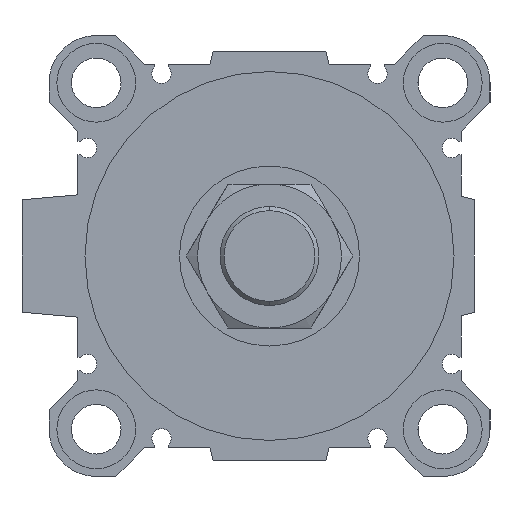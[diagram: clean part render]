
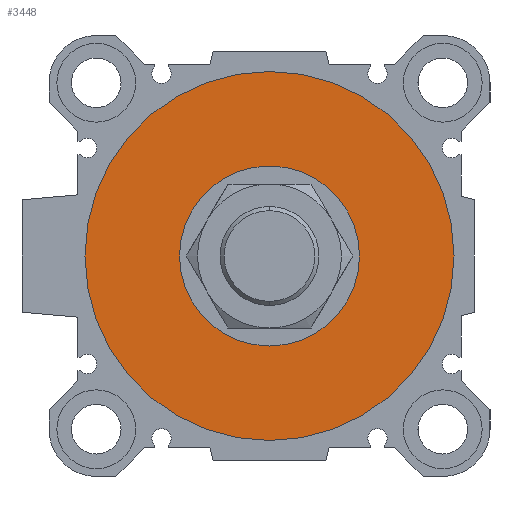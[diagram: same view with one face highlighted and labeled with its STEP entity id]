
A CAD part, left-side view. The second image highlights one B-rep face of the part: STEP entity #3448.
In plain terms, the highlighted planar face has unit normal (-1, 0, 0).
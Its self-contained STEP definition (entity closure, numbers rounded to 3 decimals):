
#30 = DIRECTION ( 'NONE',  ( 0., 0., -1. ) ) ;
#122 = CIRCLE ( 'NONE', #3495, 20. ) ;
#367 = CIRCLE ( 'NONE', #5378, 20. ) ;
#776 = ORIENTED_EDGE ( 'NONE', *, *, #5286, .T. ) ;
#891 = FACE_OUTER_BOUND ( 'NONE', #3855, .T. ) ;
#945 = DIRECTION ( 'NONE',  ( 1., 0., 0. ) ) ;
#1012 = DIRECTION ( 'NONE',  ( 1., 0., 0. ) ) ;
#1614 = VERTEX_POINT ( 'NONE', #1697 ) ;
#1697 = CARTESIAN_POINT ( 'NONE',  ( 5., 0., -20. ) ) ;
#1913 = DIRECTION ( 'NONE',  ( 1., 0., 0. ) ) ;
#2673 = CARTESIAN_POINT ( 'NONE',  ( 5., 0., 0. ) ) ;
#2872 = AXIS2_PLACEMENT_3D ( 'NONE', #7577, #5840, #30 ) ;
#3085 = DIRECTION ( 'NONE',  ( 0., 0., -1. ) ) ;
#3436 = EDGE_LOOP ( 'NONE', ( #4138, #776 ) ) ;
#3448 = ADVANCED_FACE ( 'NONE', ( #891, #6802 ), #5073, .F. ) ;
#3495 = AXIS2_PLACEMENT_3D ( 'NONE', #6037, #3734, #3085 ) ;
#3524 = AXIS2_PLACEMENT_3D ( 'NONE', #6765, #1012, #6843 ) ;
#3674 = DIRECTION ( 'NONE',  ( 0., 0., -1. ) ) ;
#3702 = AXIS2_PLACEMENT_3D ( 'NONE', #2673, #945, #4477 ) ;
#3734 = DIRECTION ( 'NONE',  ( 1., 0., 0. ) ) ;
#3855 = EDGE_LOOP ( 'NONE', ( #6724, #7085 ) ) ;
#4062 = EDGE_CURVE ( 'NONE', #7466, #1614, #367, .T. ) ;
#4138 = ORIENTED_EDGE ( 'NONE', *, *, #4062, .T. ) ;
#4468 = CIRCLE ( 'NONE', #2872, 41. ) ;
#4477 = DIRECTION ( 'NONE',  ( 0., 0., -1. ) ) ;
#4870 = VERTEX_POINT ( 'NONE', #6026 ) ;
#5011 = CARTESIAN_POINT ( 'NONE',  ( 5., 0., 0. ) ) ;
#5073 = PLANE ( 'NONE',  #3524 ) ;
#5245 = CARTESIAN_POINT ( 'NONE',  ( 5., 0., 20. ) ) ;
#5286 = EDGE_CURVE ( 'NONE', #1614, #7466, #122, .T. ) ;
#5378 = AXIS2_PLACEMENT_3D ( 'NONE', #5011, #1913, #3674 ) ;
#5540 = EDGE_CURVE ( 'NONE', #4870, #6329, #4468, .T. ) ;
#5840 = DIRECTION ( 'NONE',  ( 1., 0., 0. ) ) ;
#6026 = CARTESIAN_POINT ( 'NONE',  ( 5., 0., -41. ) ) ;
#6037 = CARTESIAN_POINT ( 'NONE',  ( 5., 0., 0. ) ) ;
#6329 = VERTEX_POINT ( 'NONE', #6619 ) ;
#6619 = CARTESIAN_POINT ( 'NONE',  ( 5., 0., 41. ) ) ;
#6631 = EDGE_CURVE ( 'NONE', #6329, #4870, #6763, .T. ) ;
#6724 = ORIENTED_EDGE ( 'NONE', *, *, #6631, .F. ) ;
#6763 = CIRCLE ( 'NONE', #3702, 41. ) ;
#6765 = CARTESIAN_POINT ( 'NONE',  ( 5., 0., 0. ) ) ;
#6802 = FACE_BOUND ( 'NONE', #3436, .T. ) ;
#6843 = DIRECTION ( 'NONE',  ( 0., 1., 0. ) ) ;
#7085 = ORIENTED_EDGE ( 'NONE', *, *, #5540, .F. ) ;
#7466 = VERTEX_POINT ( 'NONE', #5245 ) ;
#7577 = CARTESIAN_POINT ( 'NONE',  ( 5., 0., 0. ) ) ;
